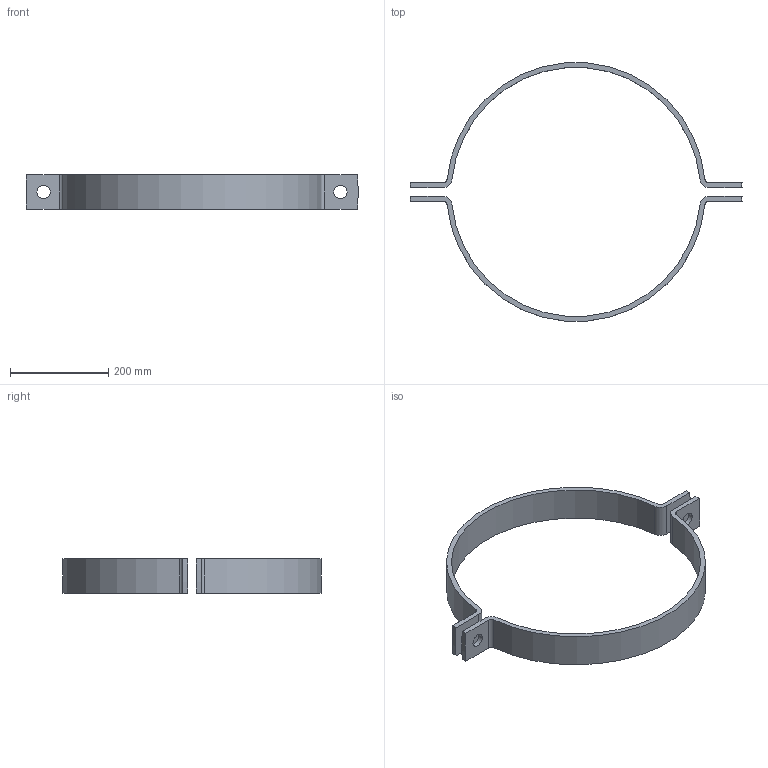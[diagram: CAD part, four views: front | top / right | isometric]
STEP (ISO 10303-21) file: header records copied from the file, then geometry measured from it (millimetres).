
FILE_DESCRIPTION (( 'STEP AP203' ), '1' );
FILE_NAME ('NW500-508 (DIN 3567).STEP', '2023-12-08T11:36:59', ( '' ), ( '' ), 'SwSTEP 2.0', 'SolidWorks 2023', '' );
FILE_SCHEMA (( 'CONFIG_CONTROL_DESIGN' ));
Length unit declared in the file: millimetre
Products named in the file (1): NW500-508 (DIN 3567)
Bounding box: 676.6 x 526.02 x 70 mm (x, y, z)
Volume: 1285961.5 mm3; surface area: 300689.5 mm2
Topology: 2 solids, 2 shells, 36 faces, 96 edges, 64 vertices
Faces by surface type: cylinder 24, plane 12
Entity records: 1239 total; most frequent: DIRECTION 218, CARTESIAN_POINT 197, ORIENTED_EDGE 192, EDGE_CURVE 96, AXIS2_PLACEMENT_3D 85, VERTEX_POINT 64, CIRCLE 48, LINE 48
